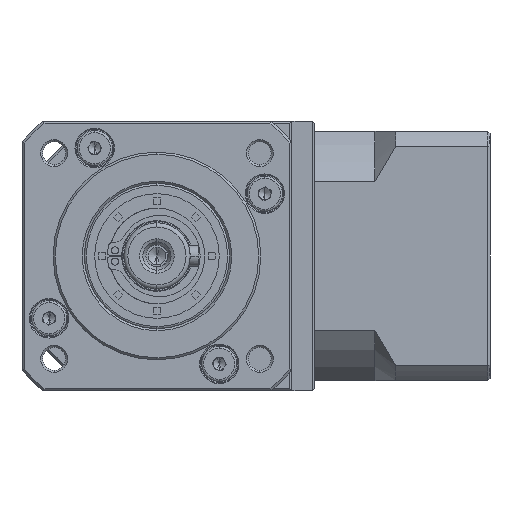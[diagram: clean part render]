
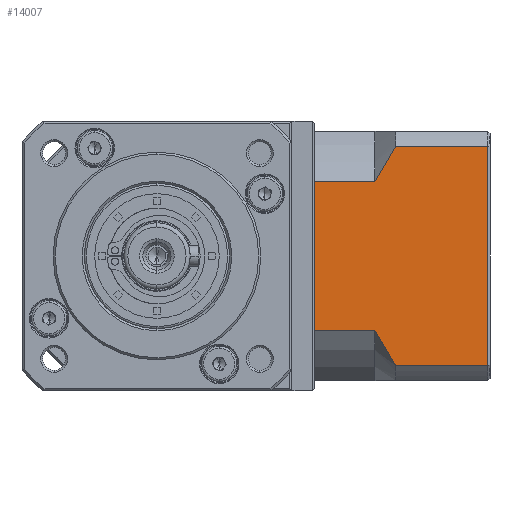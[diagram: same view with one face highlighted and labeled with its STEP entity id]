
A CAD part, left-side view. The second image highlights one B-rep face of the part: STEP entity #14007.
In plain terms, the highlighted planar face has unit normal (-1, 0, 0).
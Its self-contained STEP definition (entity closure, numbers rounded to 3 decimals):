
#1482 = VERTEX_POINT ( 'NONE', #117592 ) ;
#4474 = CARTESIAN_POINT ( 'NONE',  ( -28.259, -88.346, -146.803 ) ) ;
#4954 = DIRECTION ( 'NONE',  ( 0., -1., 0. ) ) ;
#9457 = LINE ( 'NONE', #77081, #72929 ) ;
#13343 = VECTOR ( 'NONE', #160022, 1000. ) ;
#14007 = ADVANCED_FACE ( 'NONE', ( #84503 ), #117919, .F. ) ;
#17238 = DIRECTION ( 'NONE',  ( 0., 1., 0. ) ) ;
#22313 = VERTEX_POINT ( 'NONE', #25996 ) ;
#22509 = ORIENTED_EDGE ( 'NONE', *, *, #43877, .T. ) ;
#22636 = VERTEX_POINT ( 'NONE', #133794 ) ;
#25996 = CARTESIAN_POINT ( 'NONE',  ( -28.259, -60.646, -98.775 ) ) ;
#30608 = CARTESIAN_POINT ( 'NONE',  ( -28.259, -61.396, -136.287 ) ) ;
#32910 = B_SPLINE_CURVE_WITH_KNOTS ( 'NONE', 3,
 ( #45831, #109946, #46926, #135469, #59625, #148233 ),
 .UNSPECIFIED., .F., .F.,
 ( 4, 2, 4 ),
 ( 0.052, 0.057, 0.062 ),
 .UNSPECIFIED. ) ;
#32979 = EDGE_LOOP ( 'NONE', ( #41615, #86546, #50027, #22509, #46217, #164298, #121372, #145695 ) ) ;
#41615 = ORIENTED_EDGE ( 'NONE', *, *, #138685, .F. ) ;
#43877 = EDGE_CURVE ( 'NONE', #103205, #22313, #32910, .T. ) ;
#45831 = CARTESIAN_POINT ( 'NONE',  ( -28.259, -65.646, -90.345 ) ) ;
#46217 = ORIENTED_EDGE ( 'NONE', *, *, #163016, .F. ) ;
#46926 = CARTESIAN_POINT ( 'NONE',  ( -28.259, -63.873, -93.084 ) ) ;
#47218 = LINE ( 'NONE', #94058, #76984 ) ;
#50027 = ORIENTED_EDGE ( 'NONE', *, *, #93069, .F. ) ;
#53695 = CARTESIAN_POINT ( 'NONE',  ( -28.259, -65.646, -143.26 ) ) ;
#55119 = AXIS2_PLACEMENT_3D ( 'NONE', #4474, #93047, #17238 ) ;
#56043 = CARTESIAN_POINT ( 'NONE',  ( -28.259, -64.745, -141.897 ) ) ;
#59625 = CARTESIAN_POINT ( 'NONE',  ( -28.259, -61.394, -97.323 ) ) ;
#71406 = CARTESIAN_POINT ( 'NONE',  ( -28.259, -87.846, -146.803 ) ) ;
#71603 = EDGE_CURVE ( 'NONE', #74789, #132589, #146367, .T. ) ;
#72929 = VECTOR ( 'NONE', #140134, 1000. ) ;
#73791 = LINE ( 'NONE', #105492, #141135 ) ;
#74789 = VERTEX_POINT ( 'NONE', #116901 ) ;
#76286 = VERTEX_POINT ( 'NONE', #149336 ) ;
#76984 = VECTOR ( 'NONE', #157318, 1000. ) ;
#77081 = CARTESIAN_POINT ( 'NONE',  ( -28.259, -60.646, -143.26 ) ) ;
#77602 = CARTESIAN_POINT ( 'NONE',  ( -28.259, -87.846, -90.345 ) ) ;
#80763 = LINE ( 'NONE', #71406, #13343 ) ;
#84424 = VECTOR ( 'NONE', #4954, 1000. ) ;
#84503 = FACE_OUTER_BOUND ( 'NONE', #32979, .T. ) ;
#86546 = ORIENTED_EDGE ( 'NONE', *, *, #157183, .T. ) ;
#93047 = DIRECTION ( 'NONE',  ( 1., 0., 0. ) ) ;
#93069 = EDGE_CURVE ( 'NONE', #103205, #149529, #47218, .T. ) ;
#94058 = CARTESIAN_POINT ( 'NONE',  ( -28.259, -60.646, -90.345 ) ) ;
#97233 = LINE ( 'NONE', #100178, #156822 ) ;
#100178 = CARTESIAN_POINT ( 'NONE',  ( -28.259, -46.146, -146.803 ) ) ;
#103205 = VERTEX_POINT ( 'NONE', #117814 ) ;
#105139 = EDGE_CURVE ( 'NONE', #1482, #22636, #97233, .T. ) ;
#105492 = CARTESIAN_POINT ( 'NONE',  ( -28.259, -60.646, -134.83 ) ) ;
#106334 = CARTESIAN_POINT ( 'NONE',  ( -28.259, -62.197, -137.712 ) ) ;
#109946 = CARTESIAN_POINT ( 'NONE',  ( -28.259, -64.746, -91.705 ) ) ;
#116901 = CARTESIAN_POINT ( 'NONE',  ( -28.259, -60.646, -134.83 ) ) ;
#117592 = CARTESIAN_POINT ( 'NONE',  ( -28.259, -46.146, -98.775 ) ) ;
#117814 = CARTESIAN_POINT ( 'NONE',  ( -28.259, -65.646, -90.345 ) ) ;
#117919 = PLANE ( 'NONE',  #55119 ) ;
#118009 = LINE ( 'NONE', #131164, #84424 ) ;
#118490 = EDGE_CURVE ( 'NONE', #74789, #22636, #73791, .T. ) ;
#119059 = CARTESIAN_POINT ( 'NONE',  ( -28.259, -60.646, -134.83 ) ) ;
#121372 = ORIENTED_EDGE ( 'NONE', *, *, #118490, .F. ) ;
#130464 = DIRECTION ( 'NONE',  ( 0., 1., 0. ) ) ;
#131164 = CARTESIAN_POINT ( 'NONE',  ( -28.259, -60.646, -98.775 ) ) ;
#131870 = CARTESIAN_POINT ( 'NONE',  ( -28.259, -63.871, -140.518 ) ) ;
#132589 = VERTEX_POINT ( 'NONE', #53695 ) ;
#133794 = CARTESIAN_POINT ( 'NONE',  ( -28.259, -46.146, -134.83 ) ) ;
#135469 = CARTESIAN_POINT ( 'NONE',  ( -28.259, -62.197, -95.891 ) ) ;
#138685 = EDGE_CURVE ( 'NONE', #76286, #132589, #9457, .T. ) ;
#140134 = DIRECTION ( 'NONE',  ( 0., 1., 0. ) ) ;
#141135 = VECTOR ( 'NONE', #130464, 1000. ) ;
#144648 = CARTESIAN_POINT ( 'NONE',  ( -28.259, -65.646, -143.26 ) ) ;
#145695 = ORIENTED_EDGE ( 'NONE', *, *, #71603, .T. ) ;
#146367 = B_SPLINE_CURVE_WITH_KNOTS ( 'NONE', 3,
 ( #119059, #30608, #106334, #131870, #56043, #144648 ),
 .UNSPECIFIED., .F., .F.,
 ( 4, 2, 4 ),
 ( 0.1, 0.104, 0.109 ),
 .UNSPECIFIED. ) ;
#148233 = CARTESIAN_POINT ( 'NONE',  ( -28.259, -60.646, -98.775 ) ) ;
#149336 = CARTESIAN_POINT ( 'NONE',  ( -28.259, -87.846, -143.26 ) ) ;
#149529 = VERTEX_POINT ( 'NONE', #77602 ) ;
#151229 = DIRECTION ( 'NONE',  ( 0., 0., -1. ) ) ;
#156822 = VECTOR ( 'NONE', #151229, 1000. ) ;
#157183 = EDGE_CURVE ( 'NONE', #76286, #149529, #80763, .T. ) ;
#157318 = DIRECTION ( 'NONE',  ( 0., -1., 0. ) ) ;
#160022 = DIRECTION ( 'NONE',  ( 0., 0., 1. ) ) ;
#163016 = EDGE_CURVE ( 'NONE', #1482, #22313, #118009, .T. ) ;
#164298 = ORIENTED_EDGE ( 'NONE', *, *, #105139, .T. ) ;
